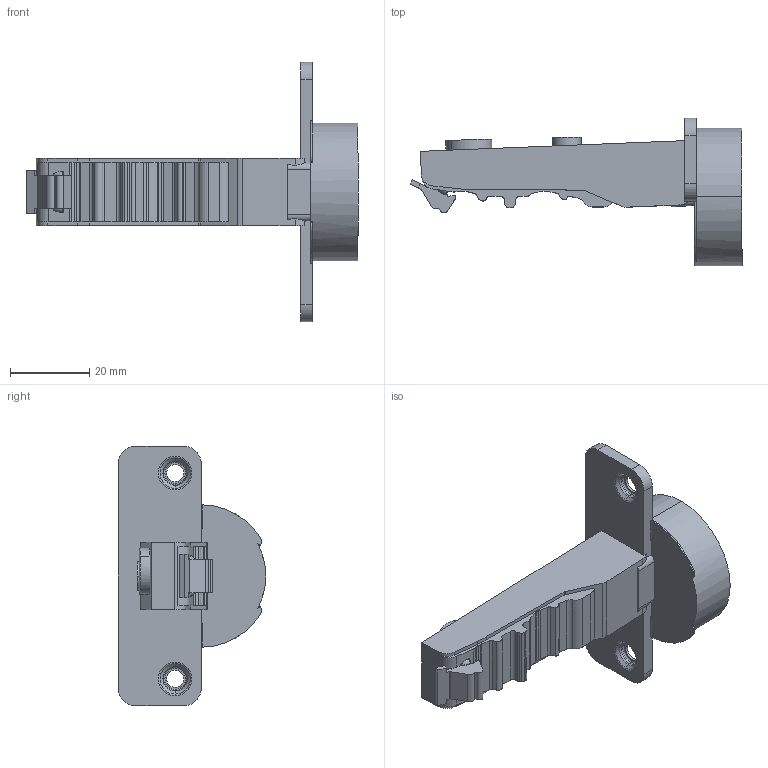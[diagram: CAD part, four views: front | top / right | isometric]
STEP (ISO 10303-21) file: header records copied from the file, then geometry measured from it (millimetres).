
FILE_DESCRIPTION (( 'STEP AP203' ), '1' );
FILE_NAME ('C82A677FA-DTC 3D close.STEP', '2024-07-10T09:05:21', ( '微软用户' ), ( '微软中国' ), 'SwSTEP 2.0', 'SolidWorks 2021', '' );
FILE_SCHEMA (( 'CONFIG_CONTROL_DESIGN' ));
Length unit declared in the file: millimetre
Products named in the file (1): C82A677FA-DTC 3D close
Bounding box: 83.89 x 37.28 x 65.56 mm (x, y, z)
Volume: 30671.3 mm3; surface area: 10085.4 mm2
Topology: 1 solids, 1 shells, 185 faces, 505 edges, 328 vertices
Faces by surface type: cylinder 78, plane 69, torus 22, cone 8, bspline 8
Entity records: 6207 total; most frequent: CARTESIAN_POINT 1378, DIRECTION 1021, ORIENTED_EDGE 1010, EDGE_CURVE 505, AXIS2_PLACEMENT_3D 382, VERTEX_POINT 328, LINE 257, VECTOR 257
